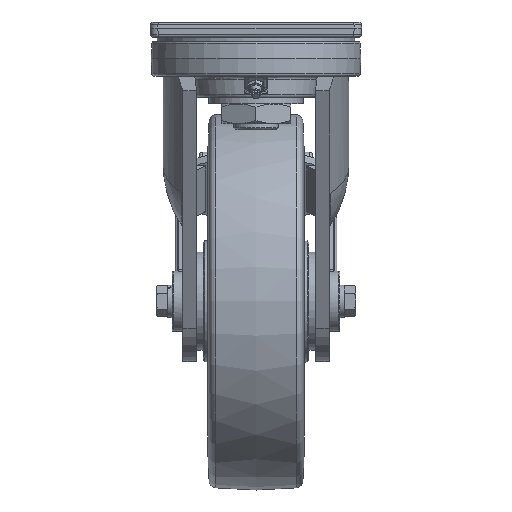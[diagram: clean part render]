
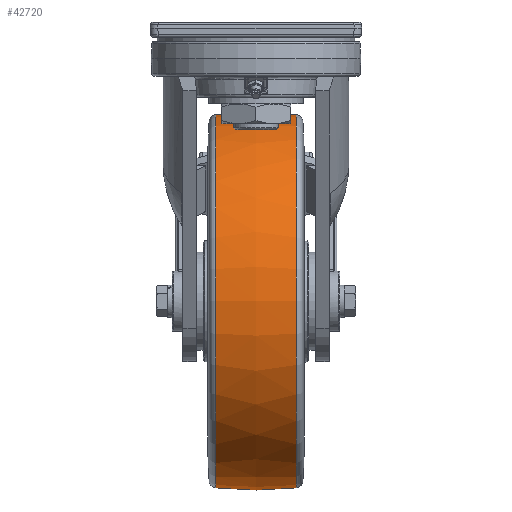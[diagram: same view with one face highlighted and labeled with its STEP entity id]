
A CAD part, left-side view. The second image highlights one B-rep face of the part: STEP entity #42720.
In plain terms, the highlighted free-form (B-spline) face has degree [2, 2] with [3, 9] control points.
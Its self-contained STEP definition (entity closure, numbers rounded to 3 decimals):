
#27=(
BOUNDED_SURFACE()
B_SPLINE_SURFACE(2,2,((#80747,#80748,#80749,#80750,#80751,#80752,#80753,
#80754,#80755),(#80756,#80757,#80758,#80759,#80760,#80761,#80762,#80763,
#80764),(#80765,#80766,#80767,#80768,#80769,#80770,#80771,#80772,#80773)),
 .UNSPECIFIED.,.F.,.T.,.F.)
B_SPLINE_SURFACE_WITH_KNOTS((3,3),(3,2,2,2,3),(-0.107,0.107),
(-3.142,-1.571,0.,1.571,3.142),
 .UNSPECIFIED.)
GEOMETRIC_REPRESENTATION_ITEM()
RATIONAL_B_SPLINE_SURFACE(((1.,0.707,1.,0.707,1.,
0.707,1.,0.707,1.),(0.994,0.703,
0.994,0.703,0.994,0.703,
0.994,0.703,0.994),(1.,0.707,
1.,0.707,1.,0.707,1.,0.707,1.)))
REPRESENTATION_ITEM('')
SURFACE()
);
#11479=FACE_OUTER_BOUND('',#14045,.T.);
#14045=EDGE_LOOP('',(#34650,#34651,#34652,#34653,#34654,#34655));
#16342=CIRCLE('',#45982,123.579);
#16343=CIRCLE('',#45983,123.579);
#16344=CIRCLE('',#45984,250.);
#16345=CIRCLE('',#45985,123.579);
#16346=CIRCLE('',#45986,123.579);
#18831=VERTEX_POINT('',#80742);
#18832=VERTEX_POINT('',#80744);
#18833=VERTEX_POINT('',#80774);
#18834=VERTEX_POINT('',#80776);
#24423=EDGE_CURVE('',#18831,#18832,#16342,.T.);
#24424=EDGE_CURVE('',#18832,#18831,#16343,.T.);
#24425=EDGE_CURVE('',#18831,#18833,#16344,.T.);
#24426=EDGE_CURVE('',#18833,#18834,#16345,.T.);
#24427=EDGE_CURVE('',#18834,#18833,#16346,.T.);
#34650=ORIENTED_EDGE('',*,*,#24424,.F.);
#34651=ORIENTED_EDGE('',*,*,#24423,.F.);
#34652=ORIENTED_EDGE('',*,*,#24425,.T.);
#34653=ORIENTED_EDGE('',*,*,#24426,.T.);
#34654=ORIENTED_EDGE('',*,*,#24427,.T.);
#34655=ORIENTED_EDGE('',*,*,#24425,.F.);
#42720=ADVANCED_FACE('',(#11479),#27,.F.);
#45982=AXIS2_PLACEMENT_3D('',#80745,#52672,#52673);
#45983=AXIS2_PLACEMENT_3D('',#80746,#52674,#52675);
#45984=AXIS2_PLACEMENT_3D('',#80775,#52676,#52677);
#45985=AXIS2_PLACEMENT_3D('',#80777,#52678,#52679);
#45986=AXIS2_PLACEMENT_3D('',#80778,#52680,#52681);
#52672=DIRECTION('center_axis',(0.,1.,0.));
#52673=DIRECTION('ref_axis',(-1.,0.,0.));
#52674=DIRECTION('center_axis',(0.,1.,0.));
#52675=DIRECTION('ref_axis',(-1.,0.,0.));
#52676=DIRECTION('center_axis',(1.,0.,0.));
#52677=DIRECTION('ref_axis',(0.,0.,1.));
#52678=DIRECTION('center_axis',(0.,1.,0.));
#52679=DIRECTION('ref_axis',(-1.,0.,0.));
#52680=DIRECTION('center_axis',(0.,1.,0.));
#52681=DIRECTION('ref_axis',(-1.,0.,0.));
#80742=CARTESIAN_POINT('',(75.,26.62,-57.421));
#80744=CARTESIAN_POINT('',(198.579,26.62,-181.));
#80745=CARTESIAN_POINT('Origin',(75.,26.62,-181.));
#80746=CARTESIAN_POINT('Origin',(75.,26.62,-181.));
#80747=CARTESIAN_POINT('Ctrl Pts',(75.,-26.62,-57.421));
#80748=CARTESIAN_POINT('Ctrl Pts',(198.579,-26.62,-57.421));
#80749=CARTESIAN_POINT('Ctrl Pts',(198.579,-26.62,-181.));
#80750=CARTESIAN_POINT('Ctrl Pts',(198.579,-26.62,-304.579));
#80751=CARTESIAN_POINT('Ctrl Pts',(75.,-26.62,-304.579));
#80752=CARTESIAN_POINT('Ctrl Pts',(-48.579,-26.62,-304.579));
#80753=CARTESIAN_POINT('Ctrl Pts',(-48.579,-26.62,-181.));
#80754=CARTESIAN_POINT('Ctrl Pts',(-48.579,-26.62,-57.421));
#80755=CARTESIAN_POINT('Ctrl Pts',(75.,-26.62,-57.421));
#80756=CARTESIAN_POINT('Ctrl Pts',(75.,0.,
-54.571));
#80757=CARTESIAN_POINT('Ctrl Pts',(201.429,0.,
-54.571));
#80758=CARTESIAN_POINT('Ctrl Pts',(201.429,0.,
-181.));
#80759=CARTESIAN_POINT('Ctrl Pts',(201.429,0.,
-307.429));
#80760=CARTESIAN_POINT('Ctrl Pts',(75.,0.,
-307.429));
#80761=CARTESIAN_POINT('Ctrl Pts',(-51.429,0.,
-307.429));
#80762=CARTESIAN_POINT('Ctrl Pts',(-51.429,0.,
-181.));
#80763=CARTESIAN_POINT('Ctrl Pts',(-51.429,0.,
-54.571));
#80764=CARTESIAN_POINT('Ctrl Pts',(75.,0.,
-54.571));
#80765=CARTESIAN_POINT('Ctrl Pts',(75.,26.62,-57.421));
#80766=CARTESIAN_POINT('Ctrl Pts',(198.579,26.62,-57.421));
#80767=CARTESIAN_POINT('Ctrl Pts',(198.579,26.62,-181.));
#80768=CARTESIAN_POINT('Ctrl Pts',(198.579,26.62,-304.579));
#80769=CARTESIAN_POINT('Ctrl Pts',(75.,26.62,-304.579));
#80770=CARTESIAN_POINT('Ctrl Pts',(-48.579,26.62,-304.579));
#80771=CARTESIAN_POINT('Ctrl Pts',(-48.579,26.62,-181.));
#80772=CARTESIAN_POINT('Ctrl Pts',(-48.579,26.62,-57.421));
#80773=CARTESIAN_POINT('Ctrl Pts',(75.,26.62,-57.421));
#80774=CARTESIAN_POINT('',(75.,-26.62,-57.421));
#80775=CARTESIAN_POINT('Origin',(75.,0.,-306.));
#80776=CARTESIAN_POINT('',(198.579,-26.62,-181.));
#80777=CARTESIAN_POINT('Origin',(75.,-26.62,-181.));
#80778=CARTESIAN_POINT('Origin',(75.,-26.62,-181.));
